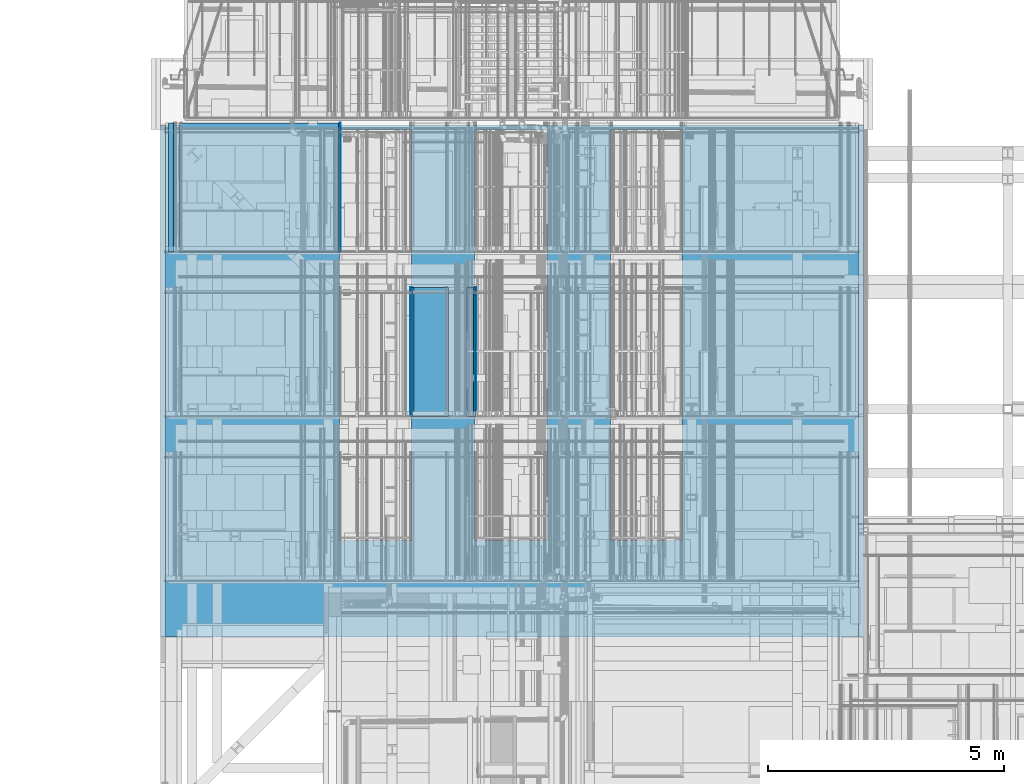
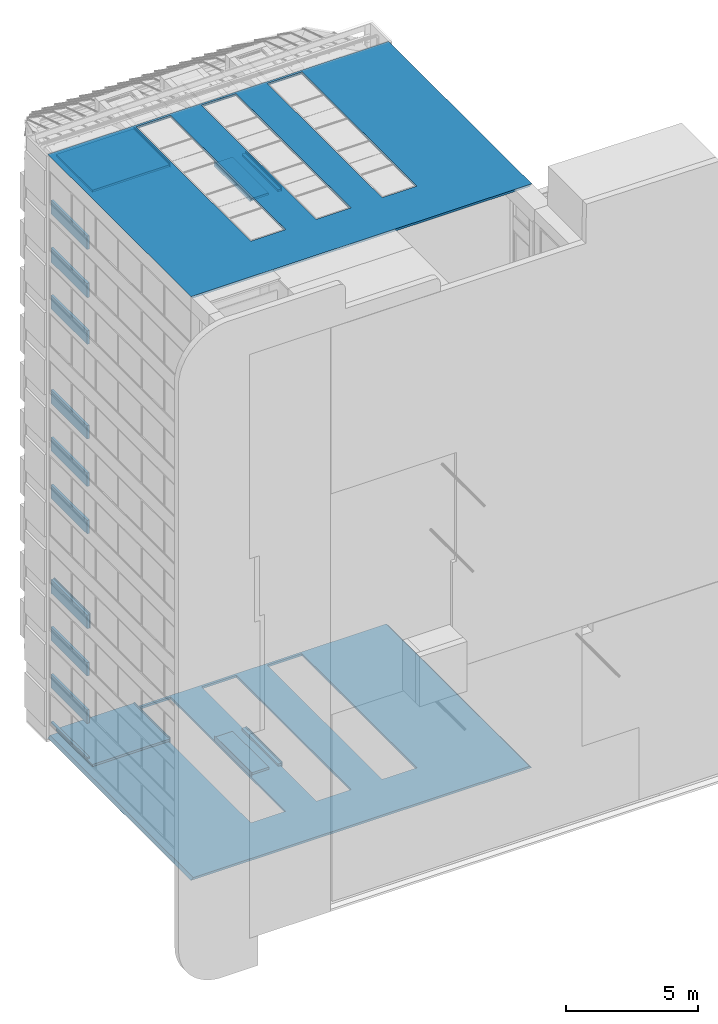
# One storey, part 16 of 583: 32 walls, 6 openings.
"""IFC2X3 building model written with IfcOpenShell, lengths in metres."""

import ifcopenshell
import ifcopenshell.guid

model = None  # the IFC model being written
_history = None  # IfcOwnerHistory: only IFC2X3 demands one
_inside = {}  # id of a spatial element -> (the spatial element, [elements in it])
_under = {}  # id of a project, library or spatial element -> (it, [spatial elements below it])
_declared = {}  # id of a project -> (the project, [libraries it declares])
_typed = {}  # id of a type object -> (the type object, [elements of that type])
_made_of = {}  # id of a material, layer set ... -> (it, [elements and type objects made of it])


def new_model(schema):
    """Start an empty IFC model of exactly this schema.

    Asked for "IFC4X3", IfcOpenShell would pick the latest addendum, in which some entities
    have other attributes; the version numbers below select the first issue.
    IFC2X3 requires an IfcOwnerHistory on every rooted entity: one is made here for all.
    """
    global model, _history
    if schema == "IFC4X3":
        model = ifcopenshell.file(schema_version=(4, 3, 0, 0))
    else:
        model = ifcopenshell.file(schema=schema)
    _inside.clear()
    _under.clear()
    _declared.clear()
    _typed.clear()
    _made_of.clear()
    _history = None
    if model.schema == "IFC2X3":
        org = make("IfcOrganization", Name="unknown")
        user = make(
            "IfcPersonAndOrganization",
            ThePerson=make("IfcPerson", FamilyName="unknown"),
            TheOrganization=org,
        )
        app = make(
            "IfcApplication",
            ApplicationDeveloper=org,
            Version="unknown",
            ApplicationFullName="unknown",
            ApplicationIdentifier="unknown",
        )
        _history = make(
            "IfcOwnerHistory",
            OwningUser=user,
            OwningApplication=app,
            ChangeAction="ADDED",
            CreationDate=0,
        )
    return model


def make(cls, **values):
    """One entity of the class cls with the attributes given. An attribute that is None is left unset."""
    return model.create_entity(
        cls, **{name: value for name, value in values.items() if value is not None}
    )


def entity(cls, *values):
    """Any entity or typed value of the class cls, its attributes in the order of the schema. None: left unset."""
    e = model.create_entity(cls)
    for i, value in enumerate(values):
        if value is not None:
            e[i] = value
    return e


def rooted(cls, **values):
    """An entity with a GlobalId (a new one), such as an element, a storey or a relation."""
    return make(cls, GlobalId=ifcopenshell.guid.new(), OwnerHistory=_history, **values)


def si_unit(unit_type, name, prefix=None):
    """IfcSIUnit, for example si_unit("LENGTHUNIT", "METRE", prefix="MILLI")."""
    return make("IfcSIUnit", UnitType=unit_type, Prefix=prefix, Name=name)


def converted_unit(unit_type, name, factor, base, dimensions=None, offset=None):
    """IfcConversionBasedUnit, such as the inch: factor (a typed value) times the base unit."""
    return make(
        "IfcConversionBasedUnit"
        if offset is None
        else "IfcConversionBasedUnitWithOffset",
        ConversionOffset=offset,
        Dimensions=None
        if dimensions is None
        else entity("IfcDimensionalExponents", *dimensions),
        UnitType=unit_type,
        Name=name,
        ConversionFactor=make(
            "IfcMeasureWithUnit", ValueComponent=factor, UnitComponent=base
        ),
    )


def derived_unit(unit_type, elements):
    """IfcDerivedUnit: a product of units, each with its exponent."""
    return make(
        "IfcDerivedUnit",
        Elements=[
            make("IfcDerivedUnitElement", Unit=unit, Exponent=power)
            for unit, power in elements
        ],
        UnitType=unit_type,
    )


def money_unit(currency):
    """IfcMonetaryUnit."""
    return make("IfcMonetaryUnit", Currency=currency)


def assignment(units):
    """IfcUnitAssignment: the units of a project."""
    return None if units is None else make("IfcUnitAssignment", Units=units)


def point(xyz):
    """IfcCartesianPoint."""
    return None if xyz is None else make("IfcCartesianPoint", Coordinates=xyz)


def direction(xyz):
    """IfcDirection."""
    return None if xyz is None else make("IfcDirection", DirectionRatios=xyz)


def frame(location, z_axis=None, x_axis=None):
    """IfcAxis2Placement3D, a coordinate frame: its origin and axes. An axis left out is left unset."""
    return make(
        "IfcAxis2Placement3D",
        Location=point(location),
        Axis=direction(z_axis),
        RefDirection=direction(x_axis),
    )


def frame_2d(location, x_axis=None):
    """IfcAxis2Placement2D, a coordinate frame in the plane: its origin and x axis."""
    return make(
        "IfcAxis2Placement2D", Location=point(location), RefDirection=direction(x_axis)
    )


def origin_with_axes():
    """The frame at (0, 0, 0) with the z axis (0, 0, 1) and the x axis (1, 0, 0) written out."""
    return frame((0.0, 0.0, 0.0), z_axis=(0.0, 0.0, 1.0), x_axis=(1.0, 0.0, 0.0))


def place(relative_to, where):
    """IfcLocalPlacement: puts the frame where relative to a parent placement (None: the world)."""
    return make(
        "IfcLocalPlacement", PlacementRelTo=relative_to, RelativePlacement=where
    )


def context(
    kind, dimensions, precision=None, world=None, true_north=None, identifier=None
):
    """IfcGeometricRepresentationContext, for example the 3D "Model" context."""
    return make(
        "IfcGeometricRepresentationContext",
        ContextIdentifier=identifier,
        ContextType=kind,
        CoordinateSpaceDimension=dimensions,
        Precision=precision,
        WorldCoordinateSystem=world,
        TrueNorth=true_north,
    )


def subcontext(parent, identifier, kind, view, scale=None):
    """IfcGeometricRepresentationSubContext, for example "Body" below "Model"."""
    return make(
        "IfcGeometricRepresentationSubContext",
        ContextIdentifier=identifier,
        ContextType=kind,
        ParentContext=parent,
        TargetScale=scale,
        TargetView=view,
    )


def project(units=None, contexts=None):
    """IfcProject with its units and contexts."""
    return rooted(
        "IfcProject",
        Name="project",
        RepresentationContexts=contexts,
        UnitsInContext=assignment(units),
    )


def spatial(cls, under=None, at=None, **own):
    """A site, building, storey or space (cls), placed at a placement, below another one or the project."""
    s = rooted(cls, ObjectPlacement=at, **own)
    if under is not None:
        _under.setdefault(under.id(), (under, []))[1].append(s)
    return s


def polyline(points):
    """IfcPolyline through the points."""
    return make("IfcPolyline", Points=[point(p) for p in points])


def profile(cls, at=None, kind="AREA", **sizes):
    """A parametric profile (cls). Its sizes go by their IFC names, for example OverallWidth=200.0."""
    return make(cls, ProfileType=kind, Position=at, **sizes)


def rectangle(**sizes):
    """IfcRectangleProfileDef."""
    return profile("IfcRectangleProfileDef", **sizes)


def outline(outer, holes=None, kind="AREA"):
    """IfcArbitraryClosedProfileDef: a profile drawn as a closed curve; with holes, ...WithVoids."""
    if holes is None:
        return make("IfcArbitraryClosedProfileDef", ProfileType=kind, OuterCurve=outer)
    return make(
        "IfcArbitraryProfileDefWithVoids",
        ProfileType=kind,
        OuterCurve=outer,
        InnerCurves=holes,
    )


def extrude(swept, where, along, depth):
    """IfcExtrudedAreaSolid: the profile swept, set in the frame where, extruded along a direction by depth."""
    return make(
        "IfcExtrudedAreaSolid",
        SweptArea=swept,
        Position=where,
        ExtrudedDirection=direction(along),
        Depth=depth,
    )


def shape(context_of_items, identifier, shape_type, items):
    """IfcShapeRepresentation: the items that make up one representation, for example the "Body"."""
    return make(
        "IfcShapeRepresentation",
        ContextOfItems=context_of_items,
        RepresentationIdentifier=identifier,
        RepresentationType=shape_type,
        Items=items,
    )


def material(Name=None, Category=None):
    """IfcMaterial."""
    return make("IfcMaterial", Name=Name, Category=Category)


def made_of(thing, what):
    """Note that an element or type object is made of a material, layer set ...; save() writes the relation."""
    if what is not None:
        _made_of.setdefault(what.id(), (what, []))[1].append(thing)
    return thing


def type_object(cls, material=None, **own):
    """A type object (cls), such as IfcWallType, which elements share."""
    return made_of(rooted(cls, **own), material)


def element(
    cls,
    number,
    at=None,
    inside=None,
    cuts=None,
    type_object=None,
    material=None,
    context=None,
    identifier="Body",
    shape_type=None,
    held_by="IfcProductDefinitionShape",
    body=None,
    shapes=None,
    **own,
):
    """One element of the class cls, such as IfcWall. Its Tag is "e" and its number.

    at: its placement. inside: the storey or other place that contains it. cuts: it is an
    opening in that element (IfcRelVoidsElement). A single representation is given by context,
    identifier, shape_type and body (its items); several are given by shapes. held_by: the class
    of the entity that holds the representations. save() writes the other relations.
    """
    e = rooted(cls, Tag="e%d" % number, ObjectPlacement=at, **own)
    if body is not None:
        shapes = [shape(context, identifier, shape_type, body)]
    if shapes is not None:
        e.Representation = make(held_by, Representations=shapes)
    if inside is not None:
        _inside.setdefault(inside.id(), (inside, []))[1].append(e)
    if cuts is not None:
        rooted(
            "IfcRelVoidsElement", RelatingBuildingElement=cuts, RelatedOpeningElement=e
        )
    if type_object is not None:
        _typed.setdefault(type_object.id(), (type_object, []))[1].append(e)
    return made_of(e, material)


def aggregate(whole, parts):
    """IfcRelAggregates: a whole, such as a stair, and the parts it consists of."""
    return rooted("IfcRelAggregates", RelatingObject=whole, RelatedObjects=parts)


def save(model, path):
    """Write the relations noted so far, then the file.

    IfcRelAggregates (storeys below a building ...), IfcRelContainedInSpatialStructure (elements
    in a storey), IfcRelDefinesByType, IfcRelAssociatesMaterial and IfcRelDeclares: one each for
    every whole, place, type object, material and project.
    """
    for whole, parts in _under.values():
        aggregate(whole, parts)
    for where, things in _inside.values():
        rooted(
            "IfcRelContainedInSpatialStructure",
            RelatedElements=things,
            RelatingStructure=where,
        )
    for kind, things in _typed.values():
        rooted("IfcRelDefinesByType", RelatedObjects=things, RelatingType=kind)
    for what, things in _made_of.values():
        rooted("IfcRelAssociatesMaterial", RelatedObjects=things, RelatingMaterial=what)
    for by, libraries in _declared.values():
        rooted("IfcRelDeclares", RelatingContext=by, RelatedDefinitions=libraries)
    model.write(path)


model = new_model("IFC2X3")

# Units and contexts
model_context = context("Model", 3, precision=1e-05, world=origin_with_axes(), true_north=direction((0.0, 1.0)))
body_context = subcontext(model_context, "Body", "Model", "MODEL_VIEW", scale=1.0)
ifc_project = project(units=[si_unit("LENGTHUNIT", "METRE"), si_unit("AREAUNIT", "SQUARE_METRE"), si_unit("VOLUMEUNIT", "CUBIC_METRE"), si_unit("ABSORBEDDOSEUNIT", "GRAY"), si_unit("AMOUNTOFSUBSTANCEUNIT", "MOLE"), si_unit("DOSEEQUIVALENTUNIT", "SIEVERT"), si_unit("ELECTRICCAPACITANCEUNIT", "FARAD"), si_unit("ELECTRICCHARGEUNIT", "COULOMB"), si_unit("ELECTRICCONDUCTANCEUNIT", "SIEMENS"), si_unit("ELECTRICCURRENTUNIT", "AMPERE"), si_unit("ELECTRICRESISTANCEUNIT", "OHM"), si_unit("ELECTRICVOLTAGEUNIT", "VOLT"), si_unit("ENERGYUNIT", "JOULE"), si_unit("FORCEUNIT", "NEWTON"), si_unit("FREQUENCYUNIT", "HERTZ"), si_unit("ILLUMINANCEUNIT", "LUX"), si_unit("INDUCTANCEUNIT", "HENRY"), si_unit("LUMINOUSFLUXUNIT", "LUMEN"), si_unit("LUMINOUSINTENSITYUNIT", "CANDELA"), si_unit("MAGNETICFLUXDENSITYUNIT", "TESLA"), si_unit("MAGNETICFLUXUNIT", "WEBER"), si_unit("MASSUNIT", "GRAM"), converted_unit("PLANEANGLEUNIT", "degree", entity("IfcReal", 0.0174532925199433), si_unit("PLANEANGLEUNIT", "RADIAN"), dimensions=[0, 0, 0, 0, 0, 0, 0]), si_unit("POWERUNIT", "WATT"), si_unit("PRESSUREUNIT", "PASCAL"), si_unit("RADIOACTIVITYUNIT", "BECQUEREL"), si_unit("SOLIDANGLEUNIT", "STERADIAN"), si_unit("THERMODYNAMICTEMPERATUREUNIT", "KELVIN"), si_unit("TIMEUNIT", "SECOND"), derived_unit("ACCELERATIONUNIT", [(si_unit("LENGTHUNIT", "METRE"), 1), (si_unit("TIMEUNIT", "SECOND"), -2)]), derived_unit("ANGULARVELOCITYUNIT", [(converted_unit("PLANEANGLEUNIT", "degree", entity("IfcReal", 0.0174532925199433), si_unit("PLANEANGLEUNIT", "RADIAN"), dimensions=[0, 0, 0, 0, 0, 0, 0]), 1), (si_unit("TIMEUNIT", "SECOND"), -1)]), derived_unit("CURVATUREUNIT", [(converted_unit("PLANEANGLEUNIT", "degree", entity("IfcReal", 0.0174532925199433), si_unit("PLANEANGLEUNIT", "RADIAN"), dimensions=[0, 0, 0, 0, 0, 0, 0]), 1), (si_unit("LENGTHUNIT", "METRE"), -1)]), derived_unit("DYNAMICVISCOSITYUNIT", [(si_unit("PRESSUREUNIT", "PASCAL"), 1), (si_unit("TIMEUNIT", "SECOND"), 1)]), derived_unit("HEATFLUXDENSITYUNIT", [(si_unit("POWERUNIT", "WATT"), 1), (si_unit("LENGTHUNIT", "METRE"), -2)]), derived_unit("HEATINGVALUEUNIT", [(si_unit("ENERGYUNIT", "JOULE"), 1), (si_unit("MASSUNIT", "GRAM"), -1)]), derived_unit("INTEGERCOUNTRATEUNIT", [(si_unit("TIMEUNIT", "SECOND"), -1)]), derived_unit("IONCONCENTRATIONUNIT", [(si_unit("MASSUNIT", "GRAM"), 1), (si_unit("VOLUMEUNIT", "CUBIC_METRE"), -1)]), derived_unit("ISOTHERMALMOISTURECAPACITYUNIT", [(si_unit("VOLUMEUNIT", "CUBIC_METRE"), 1), (si_unit("MASSUNIT", "GRAM"), -1)]), derived_unit("KINEMATICVISCOSITYUNIT", [(si_unit("AREAUNIT", "SQUARE_METRE"), 1), (si_unit("TIMEUNIT", "SECOND"), -1)]), derived_unit("LINEARFORCEUNIT", [(si_unit("FORCEUNIT", "NEWTON"), 1), (si_unit("LENGTHUNIT", "METRE"), -1)]), derived_unit("LINEARMOMENTUNIT", [(si_unit("FORCEUNIT", "NEWTON"), 1), (si_unit("LENGTHUNIT", "METRE"), -1)]), derived_unit("LINEARSTIFFNESSUNIT", [(si_unit("FORCEUNIT", "NEWTON"), 1), (si_unit("LENGTHUNIT", "METRE"), -1)]), derived_unit("LINEARVELOCITYUNIT", [(si_unit("LENGTHUNIT", "METRE"), 1), (si_unit("TIMEUNIT", "SECOND"), -1)]), derived_unit("LUMINOUSINTENSITYDISTRIBUTIONUNIT", [(si_unit("LUMINOUSINTENSITYUNIT", "CANDELA"), 1), (si_unit("LUMINOUSFLUXUNIT", "LUMEN"), -1)]), derived_unit("MASSDENSITYUNIT", [(si_unit("MASSUNIT", "GRAM"), 1), (si_unit("VOLUMEUNIT", "CUBIC_METRE"), -1)]), derived_unit("MASSFLOWRATEUNIT", [(si_unit("MASSUNIT", "GRAM"), 1), (si_unit("TIMEUNIT", "SECOND"), -1)]), derived_unit("MASSPERLENGTHUNIT", [(si_unit("MASSUNIT", "GRAM"), 1), (si_unit("LENGTHUNIT", "METRE"), -1)]), derived_unit("MODULUSOFELASTICITYUNIT", [(si_unit("FORCEUNIT", "NEWTON"), 1), (si_unit("AREAUNIT", "SQUARE_METRE"), -1)]), derived_unit("MODULUSOFLINEARSUBGRADEREACTIONUNIT", [(si_unit("FORCEUNIT", "NEWTON"), 1), (si_unit("LENGTHUNIT", "METRE"), -2)]), derived_unit("MODULUSOFROTATIONALSUBGRADEREACTIONUNIT", [(si_unit("FORCEUNIT", "NEWTON"), 1), (si_unit("LENGTHUNIT", "METRE"), 1)]), derived_unit("MODULUSOFSUBGRADEREACTIONUNIT", [(si_unit("FORCEUNIT", "NEWTON"), 1), (si_unit("VOLUMEUNIT", "CUBIC_METRE"), -1)]), derived_unit("MOISTUREDIFFUSIVITYUNIT", [(si_unit("VOLUMEUNIT", "CUBIC_METRE"), 1), (si_unit("TIMEUNIT", "SECOND"), -1)]), derived_unit("MOLECULARWEIGHTUNIT", [(si_unit("MASSUNIT", "GRAM"), 1), (si_unit("AMOUNTOFSUBSTANCEUNIT", "MOLE"), -1)]), derived_unit("PLANARFORCEUNIT", [(si_unit("FORCEUNIT", "NEWTON"), 1), (si_unit("LENGTHUNIT", "METRE"), -2)]), derived_unit("ROTATIONALFREQUENCYUNIT", [(si_unit("TIMEUNIT", "SECOND"), -1)]), derived_unit("ROTATIONALMASSUNIT", [(si_unit("MASSUNIT", "GRAM"), 1), (si_unit("LENGTHUNIT", "METRE"), 2)]), derived_unit("ROTATIONALSTIFFNESSUNIT", [(si_unit("FORCEUNIT", "NEWTON"), 1), (si_unit("LENGTHUNIT", "METRE"), 1), (converted_unit("PLANEANGLEUNIT", "degree", entity("IfcReal", 0.0174532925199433), si_unit("PLANEANGLEUNIT", "RADIAN"), dimensions=[0, 0, 0, 0, 0, 0, 0]), -1)]), derived_unit("SECTIONAREAINTEGRALUNIT", [(si_unit("LENGTHUNIT", "METRE"), 5)]), derived_unit("SECTIONMODULUSUNIT", [(si_unit("LENGTHUNIT", "METRE"), 3)]), derived_unit("SHEARMODULUSUNIT", [(si_unit("FORCEUNIT", "NEWTON"), 1), (si_unit("AREAUNIT", "SQUARE_METRE"), -1)]), derived_unit("SOUNDPOWERUNIT", [(si_unit("ENERGYUNIT", "JOULE"), 1), (si_unit("TIMEUNIT", "SECOND"), -1)]), derived_unit("SPECIFICHEATCAPACITYUNIT", [(si_unit("FORCEUNIT", "NEWTON"), 1), (si_unit("MASSUNIT", "GRAM"), -1), (si_unit("THERMODYNAMICTEMPERATUREUNIT", "KELVIN"), -1)]), derived_unit("TEMPERATUREGRADIENTUNIT", [(si_unit("THERMODYNAMICTEMPERATUREUNIT", "KELVIN"), 1), (si_unit("LENGTHUNIT", "METRE"), -1)]), derived_unit("THERMALADMITTANCEUNIT", [(si_unit("POWERUNIT", "WATT"), 1), (si_unit("AREAUNIT", "SQUARE_METRE"), -1), (si_unit("THERMODYNAMICTEMPERATUREUNIT", "KELVIN"), -1)]), derived_unit("THERMALCONDUCTANCEUNIT", [(si_unit("POWERUNIT", "WATT"), 1), (si_unit("LENGTHUNIT", "METRE"), -1), (si_unit("THERMODYNAMICTEMPERATUREUNIT", "KELVIN"), -1)]), derived_unit("THERMALEXPANSIONCOEFFICIENTUNIT", [(si_unit("THERMODYNAMICTEMPERATUREUNIT", "KELVIN"), -1)]), derived_unit("THERMALRESISTANCEUNIT", [(si_unit("AREAUNIT", "SQUARE_METRE"), 1), (si_unit("POWERUNIT", "WATT"), -1)]), derived_unit("THERMALTRANSMITTANCEUNIT", [(si_unit("POWERUNIT", "WATT"), 1), (si_unit("AREAUNIT", "SQUARE_METRE"), -1), (si_unit("THERMODYNAMICTEMPERATUREUNIT", "KELVIN"), -1)]), derived_unit("TORQUEUNIT", [(si_unit("FORCEUNIT", "NEWTON"), 1), (si_unit("LENGTHUNIT", "METRE"), 1)]), derived_unit("VAPORPERMEABILITYUNIT", [(si_unit("MASSUNIT", "GRAM"), 1), (si_unit("TIMEUNIT", "SECOND"), -1)]), derived_unit("VOLUMETRICFLOWRATEUNIT", [(si_unit("VOLUMEUNIT", "CUBIC_METRE"), 1), (si_unit("TIMEUNIT", "SECOND"), -1)]), derived_unit("WARPINGCONSTANTUNIT", [(si_unit("LENGTHUNIT", "METRE"), 6)]), derived_unit("WARPINGMOMENTUNIT", [(si_unit("FORCEUNIT", "NEWTON"), 1), (si_unit("LENGTHUNIT", "METRE"), 2)]), money_unit("GBP")], contexts=[model_context])

# Site, building, storey
site_placement = place(None, origin_with_axes())
site = spatial("IfcSite", under=ifc_project, at=site_placement, Name="Site", CompositionType="ELEMENT")
building_placement = place(site_placement, origin_with_axes())
building = spatial("IfcBuilding", under=site, at=building_placement, Name="Building01", CompositionType="ELEMENT")
storey_placement = place(building_placement, frame((0.0, 0.0, 20.78), z_axis=(0.0, 0.0, 1.0), x_axis=(1.0, 0.0, 0.0)))
storey = spatial("IfcBuildingStorey", under=building, at=storey_placement, Name="RL", CompositionType="ELEMENT", Elevation=20.78)

# Wall, openings
ifc_material_1 = material(Name="A_BSUK_WallsExternal_Brick")
wall_type_1 = type_object("IfcWallType", Name="A-Walls-ExternalBrick", PredefinedType="NOTDEFINED")
wall_1_placement = place(storey_placement, frame((0.0, 3.97, -20.78), z_axis=(0.0, 1.0, 0.0), x_axis=(1.0, 0.0, 0.0)))
wall_1 = element("IfcWall", 1, at=wall_1_placement, inside=storey, type_object=wall_type_1, material=ifc_material_1, Name="A-Walls-ExternalBrick", ObjectType="A-Walls-ExternalBrick", context=body_context, shape_type="SweptSolid", body=[
    extrude(outline(polyline([(14.9, 0.0), (0.0, 0.0), (0.1, -0.1), (14.8, -0.1), (14.9, 0.0)])), origin_with_axes(), (0.0, 0.0, 1.0), 10.850238),
])
opening_1_placement = place(wall_1_placement, frame((9.53718, -0.1, 2.045508), z_axis=(0.0, 0.0, 1.0), x_axis=(1.0, 0.0, 0.0)))
element("IfcOpeningElement", 2, at=opening_1_placement, cuts=wall_1, Name="Opening", ObjectType="Opening", context=body_context, shape_type="SweptSolid", body=[
    extrude(rectangle(XDim=1.52, YDim=8.7, at=frame_2d((-0.76, 4.35), x_axis=(-1.0, 0.0))), frame((0.0, 0.0, 0.0), z_axis=(0.0, 1.0, 0.0), x_axis=(-1.0, 0.0, 0.0)), (0.0, 0.0, 1.0), 0.1),
])
opening_2_placement = place(wall_1_placement, frame((6.66718, -0.1, 2.045508), z_axis=(0.0, 0.0, 1.0), x_axis=(1.0, 0.0, 0.0)))
element("IfcOpeningElement", 3, at=opening_2_placement, cuts=wall_1, Name="Opening", ObjectType="Opening", context=body_context, shape_type="SweptSolid", body=[
    extrude(rectangle(XDim=1.52, YDim=8.7, at=frame_2d((-0.76, 4.35), x_axis=(-1.0, 0.0))), frame((0.0, 0.0, 0.0), z_axis=(0.0, 1.0, 0.0), x_axis=(-1.0, 0.0, 0.0)), (0.0, 0.0, 1.0), 0.1),
])
opening_3_placement = place(wall_1_placement, frame((3.79718, -0.1, 2.045508), z_axis=(0.0, 0.0, 1.0), x_axis=(1.0, 0.0, 0.0)))
element("IfcOpeningElement", 4, at=opening_3_placement, cuts=wall_1, Name="Opening", ObjectType="Opening", context=body_context, shape_type="SweptSolid", body=[
    extrude(rectangle(XDim=1.52, YDim=8.7, at=frame_2d((-0.76, 4.35), x_axis=(-1.0, 0.0))), frame((0.0, 0.0, 0.0), z_axis=(0.0, 1.0, 0.0), x_axis=(-1.0, 0.0, 0.0)), (0.0, 0.0, 1.0), 0.1),
])

wall_2_placement = place(storey_placement, frame((0.1, 3.97, 6.1), z_axis=(0.0, 1.0, 0.0), x_axis=(1.0, 0.0, 0.0)))
wall_2 = element("IfcWall", 5, at=wall_2_placement, inside=storey, type_object=wall_type_1, material=ifc_material_1, Name="A-Walls-ExternalBrick", ObjectType="A-Walls-ExternalBrick", context=body_context, shape_type="SweptSolid", body=[
    extrude(outline(polyline([(14.7, 0.0), (0.0, 0.0), (-0.1, -0.1), (14.8, -0.1), (14.7, 0.0)])), origin_with_axes(), (0.0, 0.0, 1.0), 10.850238),
])
opening_4_placement = place(wall_2_placement, frame((9.43718, -0.1, 2.045508), z_axis=(0.0, 0.0, 1.0), x_axis=(1.0, 0.0, 0.0)))
element("IfcOpeningElement", 6, at=opening_4_placement, cuts=wall_2, Name="Opening", ObjectType="Opening", context=body_context, shape_type="SweptSolid", body=[
    extrude(rectangle(XDim=1.52, YDim=8.7, at=frame_2d((-0.76, 4.35), x_axis=(-1.0, 0.0))), frame((0.0, 0.0, 0.0), z_axis=(0.0, 1.0, 0.0), x_axis=(-1.0, 0.0, 0.0)), (0.0, 0.0, 1.0), 0.1),
])
opening_5_placement = place(wall_2_placement, frame((3.69718, -0.1, 2.045508), z_axis=(0.0, 0.0, 1.0), x_axis=(1.0, 0.0, 0.0)))
element("IfcOpeningElement", 7, at=opening_5_placement, cuts=wall_2, Name="Opening", ObjectType="Opening", context=body_context, shape_type="SweptSolid", body=[
    extrude(rectangle(XDim=1.52, YDim=8.7, at=frame_2d((-0.76, 4.35), x_axis=(-1.0, 0.0))), frame((0.0, 0.0, 0.0), z_axis=(0.0, 1.0, 0.0), x_axis=(-1.0, 0.0, 0.0)), (0.0, 0.0, 1.0), 0.1),
])
opening_6_placement = place(wall_2_placement, frame((6.557326, -0.1, 2.050108), z_axis=(0.0, 0.0, 1.0), x_axis=(1.0, 0.0, 0.0)))
element("IfcOpeningElement", 8, at=opening_6_placement, cuts=wall_2, Name="Opening", ObjectType="Opening", context=body_context, shape_type="SweptSolid", body=[
    extrude(rectangle(XDim=1.52, YDim=8.7, at=frame_2d((-0.76, 4.35), x_axis=(-1.0, 0.0))), frame((0.0, 0.0, 0.0), z_axis=(0.0, 1.0, 0.0), x_axis=(-1.0, 0.0, 0.0)), (0.0, 0.0, 1.0), 0.1),
])

# Walls
ifc_material_2 = material(Name="A_BSUK_WallsExternal_Block")
wall_type_2 = type_object("IfcWallType", Name="A-Walls-ExternalBlock", PredefinedType="NOTDEFINED")
wall_3_placement = place(storey_placement, frame((3.77418, 12.13, -20.61), z_axis=(0.0, 1.0, 0.0), x_axis=(-1.0, 0.0, 0.0)))
element("IfcWall", 9, at=wall_3_placement, inside=storey, type_object=wall_type_2, material=ifc_material_2, Name="A-Walls-ExternalBlock", ObjectType="A-Walls-ExternalBlock", context=body_context, shape_type="SweptSolid", body=[
    extrude(rectangle(XDim=3.37418, YDim=0.1, at=frame_2d((1.68709, 0.05), x_axis=(1.0, 0.0))), origin_with_axes(), (0.0, 0.0, 1.0), 2.74),
])
wall_4_placement = place(storey_placement, frame((0.27, 12.13, -20.103), z_axis=(0.0, 1.0, 0.0), x_axis=(0.0, 0.0, -1.0)))
element("IfcWall", 10, at=wall_4_placement, inside=storey, type_object=wall_type_2, material=ifc_material_2, Name="A-Walls-ExternalBlock", ObjectType="A-Walls-ExternalBlock", context=body_context, shape_type="SweptSolid", body=[
    extrude(rectangle(XDim=0.077, YDim=0.1, at=frame_2d((0.0385, 0.05), x_axis=(1.0, 0.0))), origin_with_axes(), (0.0, 0.0, 1.0), 2.74),
])
for number, where, z_axis, x_axis, name in (
    (11, (0.27, 12.13, -17.913), (0.0, 1.0, 0.0), (0.0, 0.0, -1.0), "A-Walls-ExternalBlock"),
    (12, (0.27, 12.13, -15.723), (0.0, 1.0, 0.0), (0.0, 0.0, -1.0), "A-Walls-ExternalBlock"),
    (13, (0.27, 12.13, -13.533), (0.0, 1.0, 0.0), (0.0, 0.0, -1.0), "A-Walls-ExternalBlock"),
    (14, (0.27, 12.13, -9.153), (0.0, 1.0, 0.0), (0.0, 0.0, -1.0), "A-Walls-ExternalBlock"),
    (15, (0.27, 12.13, -6.963), (0.0, 1.0, 0.0), (0.0, 0.0, -1.0), "A-Walls-ExternalBlock"),
    (16, (0.27, 12.13, -4.773), (0.0, 1.0, 0.0), (0.0, 0.0, -1.0), "A-Walls-ExternalBlock"),
    (17, (0.27, 12.13, -0.393), (0.0, 1.0, 0.0), (0.0, 0.0, -1.0), "A-Walls-ExternalBlock"),
):
    element("IfcWall", number, at=place(storey_placement, frame(where, z_axis=z_axis, x_axis=x_axis)), inside=storey, type_object=wall_type_2, material=ifc_material_2, Name=name, ObjectType="A-Walls-ExternalBlock", context=body_context, shape_type="SweptSolid", body=[
        extrude(rectangle(XDim=0.624, YDim=0.1, at=frame_2d((0.312, 0.05), x_axis=(-1.0, 0.0))), origin_with_axes(), (0.0, 0.0, 1.0), 2.74),
    ])
wall_5_placement = place(storey_placement, frame((0.27, 12.13, 1.797), z_axis=(0.0, 1.0, 0.0), x_axis=(0.0, 0.0, -1.0)))
element("IfcWall", 18, at=wall_5_placement, inside=storey, type_object=wall_type_2, material=ifc_material_2, Name="A-Walls-ExternalBlock", ObjectType="A-Walls-ExternalBlock", context=body_context, shape_type="SweptSolid", body=[
    extrude(rectangle(XDim=0.66, YDim=0.1, at=frame_2d((0.33, 0.05), x_axis=(-1.0, 0.0))), origin_with_axes(), (0.0, 0.0, 1.0), 2.74),
])
wall_6_placement = place(storey_placement, frame((0.27, 12.13, 3.987), z_axis=(0.0, 1.0, 0.0), x_axis=(0.0, 0.0, -1.0)))
element("IfcWall", 19, at=wall_6_placement, inside=storey, type_object=wall_type_2, material=ifc_material_2, Name="A-Walls-ExternalBlock", ObjectType="A-Walls-ExternalBlock", context=body_context, shape_type="SweptSolid", body=[
    extrude(rectangle(XDim=0.624, YDim=0.1, at=frame_2d((0.312, 0.05), x_axis=(-1.0, 0.0))), origin_with_axes(), (0.0, 0.0, 1.0), 2.74),
])
wall_7_placement = place(storey_placement, frame((3.77418, 12.13, 5.93), z_axis=(0.0, 1.0, 0.0), x_axis=(-1.0, 0.0, 0.0)))
element("IfcWall", 20, at=wall_7_placement, inside=storey, type_object=wall_type_2, material=ifc_material_2, Name="A-Walls-ExternalBlock", ObjectType="A-Walls-ExternalBlock", context=body_context, shape_type="SweptSolid", body=[
    extrude(rectangle(XDim=3.37418, YDim=0.1, at=frame_2d((1.68709, 0.05), x_axis=(1.0, 0.0))), origin_with_axes(), (0.0, 0.0, 1.0), 2.74),
])
wall_8_placement = place(storey_placement, frame((6.64418, 8.64, -20.61), z_axis=(0.0, 1.0, 0.0), x_axis=(-1.0, 0.0, 0.0)))
element("IfcWall", 21, at=wall_8_placement, inside=storey, type_object=wall_type_2, material=ifc_material_2, Name="A-Walls-ExternalBlock", ObjectType="A-Walls-ExternalBlock", context=body_context, shape_type="SweptSolid", body=[
    extrude(rectangle(XDim=0.14418, YDim=0.1, at=frame_2d((0.07209, 0.05), x_axis=(1.0, 0.0))), origin_with_axes(), (0.0, 0.0, 1.0), 2.74),
])
wall_9_placement = place(storey_placement, frame((6.1, 8.64, -20.61), z_axis=(0.0, 1.0, 0.0), x_axis=(-1.0, 0.0, 0.0)))
element("IfcWall", 22, at=wall_9_placement, inside=storey, type_object=wall_type_2, material=ifc_material_2, Name="A-Walls-ExternalBlock", ObjectType="A-Walls-ExternalBlock", context=body_context, shape_type="SweptSolid", body=[
    extrude(rectangle(XDim=0.737, YDim=0.1, at=frame_2d((0.3685, 0.05), x_axis=(1.0, 0.0))), origin_with_axes(), (0.0, 0.0, 1.0), 2.74),
])
wall_10_placement = place(storey_placement, frame((6.634326, 8.64, 5.93), z_axis=(0.0, 1.0, 0.0), x_axis=(-1.0, 0.0, 0.0)))
element("IfcWall", 23, at=wall_10_placement, inside=storey, type_object=wall_type_2, material=ifc_material_2, Name="A-Walls-ExternalBlock", ObjectType="A-Walls-ExternalBlock", context=body_context, shape_type="SweptSolid", body=[
    extrude(rectangle(XDim=0.134326, YDim=0.1, at=frame_2d((0.067163, 0.05), x_axis=(1.0, 0.0))), origin_with_axes(), (0.0, 0.0, 1.0), 2.74),
])
wall_11_placement = place(storey_placement, frame((6.1, 8.64, 5.93), z_axis=(0.0, 1.0, 0.0), x_axis=(-1.0, 0.0, 0.0)))
element("IfcWall", 24, at=wall_11_placement, inside=storey, type_object=wall_type_2, material=ifc_material_2, Name="A-Walls-ExternalBlock", ObjectType="A-Walls-ExternalBlock", context=body_context, shape_type="SweptSolid", body=[
    extrude(rectangle(XDim=0.75982, YDim=0.1, at=frame_2d((0.37991, 0.05), x_axis=(1.0, 0.0))), origin_with_axes(), (0.0, 0.0, 1.0), 2.74),
])
ifc_material_3 = material(Name="A_BSUK_WallInternal_Finishes_Plasterboard")
wall_type_3 = type_object("IfcWallType", Name="default", PredefinedType="NOTDEFINED")
wall_12_placement = place(storey_placement, frame((3.80918, 12.13, -20.68), z_axis=(0.0, 1.0, 0.0), x_axis=(0.0, 0.0, 1.0)))
element("IfcWall", 25, at=wall_12_placement, inside=storey, type_object=wall_type_3, material=ifc_material_3, Name="default", ObjectType="default", context=body_context, shape_type="SweptSolid", body=[
    extrude(outline(polyline([(0.218, 0.013), (0.0, 0.013), (0.0, 0.0), (0.205, 0.0), (0.218, 0.013)])), origin_with_axes(), (0.0, 0.0, 1.0), 2.74),
])
ifc_material_4 = material(Name="A_BSUK_Insulation")
wall_13_placement = place(storey_placement, frame((3.77418, 12.13, -20.68), z_axis=(0.0, 1.0, 0.0), x_axis=(0.0, 0.0, 1.0)))
element("IfcWall", 26, at=wall_13_placement, inside=storey, type_object=wall_type_3, material=ifc_material_4, Name="default", ObjectType="default", context=body_context, shape_type="SweptSolid", body=[
    extrude(outline(polyline([(0.206, 0.036), (0.0, 0.036), (0.0, 0.0), (0.17, 0.0), (0.206, 0.036)])), origin_with_axes(), (0.0, 0.0, 1.0), 2.74),
])
wall_14_placement = place(storey_placement, frame((3.80918, 12.13, 5.895), z_axis=(0.0, 1.0, 0.0), x_axis=(0.0, 0.0, 1.0)))
element("IfcWall", 27, at=wall_14_placement, inside=storey, type_object=wall_type_3, material=ifc_material_3, Name="default", ObjectType="default", context=body_context, shape_type="SweptSolid", body=[
    extrude(outline(polyline([(-0.013, 0.013), (0.0, 0.0), (0.205, 0.0), (0.205, 0.013), (-0.013, 0.013)])), origin_with_axes(), (0.0, 0.0, 1.0), 2.74),
])
wall_15_placement = place(storey_placement, frame((3.77418, 12.13, 5.93), z_axis=(0.0, 1.0, 0.0), x_axis=(0.0, 0.0, 1.0)))
element("IfcWall", 28, at=wall_15_placement, inside=storey, type_object=wall_type_3, material=ifc_material_4, Name="default", ObjectType="default", context=body_context, shape_type="SweptSolid", body=[
    extrude(outline(polyline([(-0.036, 0.036), (0.0, 0.0), (0.17, 0.0), (0.17, 0.036), (-0.036, 0.036)])), origin_with_axes(), (0.0, 0.0, 1.0), 2.74),
])
wall_16_placement = place(storey_placement, frame((0.305, 12.13, -14.192), z_axis=(0.0, 1.0, 0.0), x_axis=(0.0, 0.0, 1.0)))
element("IfcWall", 29, at=wall_16_placement, inside=storey, type_object=wall_type_3, material=ifc_material_3, Name="default", ObjectType="default", context=body_context, shape_type="SweptSolid", body=[
    extrude(outline(polyline([(0.707, 0.013), (-0.013, 0.013), (0.0, 0.0), (0.694, 0.0), (0.707, 0.013)])), origin_with_axes(), (0.0, 0.0, 1.0), 2.74),
])
wall_17_placement = place(storey_placement, frame((0.27, 12.13, -14.157), z_axis=(0.0, 1.0, 0.0), x_axis=(0.0, 0.0, 1.0)))
element("IfcWall", 30, at=wall_17_placement, inside=storey, type_object=wall_type_3, material=ifc_material_4, Name="default", ObjectType="default", context=body_context, shape_type="SweptSolid", body=[
    extrude(outline(polyline([(0.66, 0.036), (-0.036, 0.036), (0.0, 0.0), (0.624, 0.0), (0.66, 0.036)])), origin_with_axes(), (0.0, 0.0, 1.0), 2.74),
])
wall_18_placement = place(storey_placement, frame((6.67918, 8.64, -20.68), z_axis=(0.0, 1.0, 0.0), x_axis=(0.0, 0.0, 1.0)))
element("IfcWall", 31, at=wall_18_placement, inside=storey, type_object=wall_type_3, material=ifc_material_3, Name="default", ObjectType="default", context=body_context, shape_type="SweptSolid", body=[
    extrude(outline(polyline([(0.218, 0.013), (0.0, 0.013), (0.0, 0.0), (0.205, 0.0), (0.218, 0.013)])), origin_with_axes(), (0.0, 0.0, 1.0), 2.74),
])
wall_19_placement = place(storey_placement, frame((6.64418, 8.64, -20.68), z_axis=(0.0, 1.0, 0.0), x_axis=(0.0, 0.0, 1.0)))
element("IfcWall", 32, at=wall_19_placement, inside=storey, type_object=wall_type_3, material=ifc_material_4, Name="default", ObjectType="default", context=body_context, shape_type="SweptSolid", body=[
    extrude(outline(polyline([(0.206, 0.036), (0.0, 0.036), (0.0, 0.0), (0.17, 0.0), (0.206, 0.036)])), origin_with_axes(), (0.0, 0.0, 1.0), 2.74),
])
wall_20_placement = place(storey_placement, frame((5.328, 8.64, -20.475), z_axis=(0.0, 1.0, 0.0), x_axis=(0.0, 0.0, -1.0)))
element("IfcWall", 33, at=wall_20_placement, inside=storey, type_object=wall_type_3, material=ifc_material_3, Name="default", ObjectType="default", context=body_context, shape_type="SweptSolid", body=[
    extrude(outline(polyline([(-0.013, 0.013), (0.0, 0.0), (0.205, 0.0), (0.205, 0.013), (-0.013, 0.013)])), origin_with_axes(), (0.0, 0.0, 1.0), 2.74),
])
wall_21_placement = place(storey_placement, frame((5.363, 8.64, -20.51), z_axis=(0.0, 1.0, 0.0), x_axis=(0.0, 0.0, -1.0)))
element("IfcWall", 34, at=wall_21_placement, inside=storey, type_object=wall_type_3, material=ifc_material_4, Name="default", ObjectType="default", context=body_context, shape_type="SweptSolid", body=[
    extrude(outline(polyline([(-0.036, 0.036), (0.0, 0.0), (0.17, 0.0), (0.17, 0.036), (-0.036, 0.036)])), origin_with_axes(), (0.0, 0.0, 1.0), 2.74),
])
wall_22_placement = place(storey_placement, frame((5.30518, 8.64, 6.1), z_axis=(0.0, 1.0, 0.0), x_axis=(0.0, 0.0, -1.0)))
element("IfcWall", 35, at=wall_22_placement, inside=storey, type_object=wall_type_3, material=ifc_material_3, Name="default", ObjectType="default", context=body_context, shape_type="SweptSolid", body=[
    extrude(outline(polyline([(0.218, 0.013), (0.0, 0.013), (0.0, 0.0), (0.205, 0.0), (0.218, 0.013)])), origin_with_axes(), (0.0, 0.0, 1.0), 2.74),
])
wall_23_placement = place(storey_placement, frame((5.34018, 8.64, 6.1), z_axis=(0.0, 1.0, 0.0), x_axis=(0.0, 0.0, -1.0)))
element("IfcWall", 36, at=wall_23_placement, inside=storey, type_object=wall_type_3, material=ifc_material_4, Name="default", ObjectType="default", context=body_context, shape_type="SweptSolid", body=[
    extrude(outline(polyline([(0.206, 0.036), (0.0, 0.036), (0.0, 0.0), (0.17, 0.0), (0.206, 0.036)])), origin_with_axes(), (0.0, 0.0, 1.0), 2.74),
])
wall_24_placement = place(storey_placement, frame((6.669326, 8.64, 5.895), z_axis=(0.0, 1.0, 0.0), x_axis=(0.0, 0.0, 1.0)))
element("IfcWall", 37, at=wall_24_placement, inside=storey, type_object=wall_type_3, material=ifc_material_3, Name="default", ObjectType="default", context=body_context, shape_type="SweptSolid", body=[
    extrude(outline(polyline([(-0.013, 0.013), (0.0, 0.0), (0.205, 0.0), (0.205, 0.013), (-0.013, 0.013)])), origin_with_axes(), (0.0, 0.0, 1.0), 2.74),
])
wall_25_placement = place(storey_placement, frame((6.634326, 8.64, 5.93), z_axis=(0.0, 1.0, 0.0), x_axis=(0.0, 0.0, 1.0)))
element("IfcWall", 38, at=wall_25_placement, inside=storey, type_object=wall_type_3, material=ifc_material_4, Name="default", ObjectType="default", context=body_context, shape_type="SweptSolid", body=[
    extrude(outline(polyline([(-0.036, 0.036), (0.0, 0.0), (0.17, 0.0), (0.17, 0.036), (-0.036, 0.036)])), origin_with_axes(), (0.0, 0.0, 1.0), 2.74),
])

save(model, "model.ifc")
